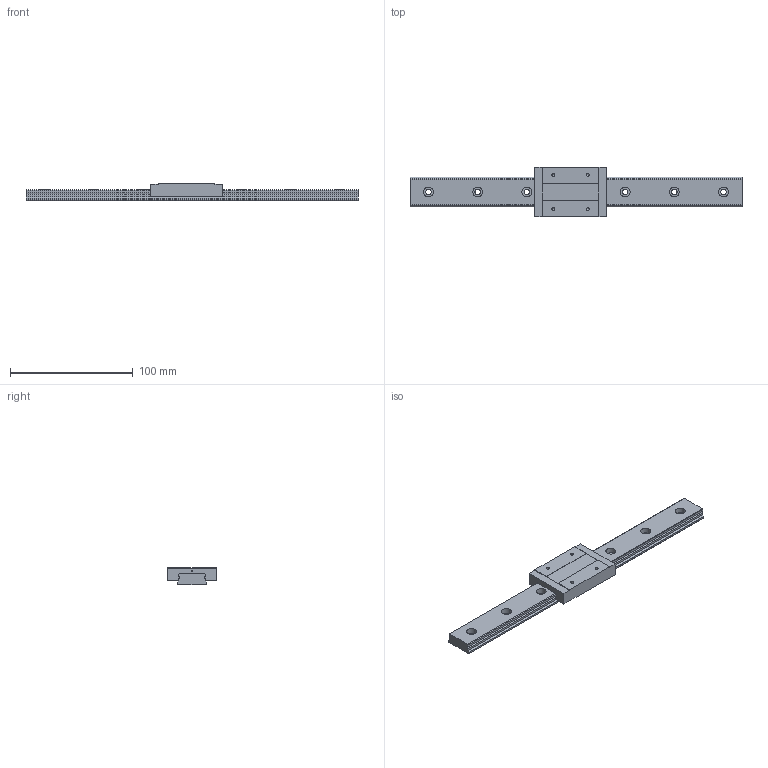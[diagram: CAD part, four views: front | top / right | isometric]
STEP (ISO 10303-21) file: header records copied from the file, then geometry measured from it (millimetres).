
FILE_DESCRIPTION((''),'2;1');
FILE_NAME('D:\製品 (図面)\カタログ用3D\リニアガイド関連\STEP形式\LGM-WL\LGM12WL.stp','2010-06-02T15:58:46',('Tsuchiya'),(''),'Autodesk Inventor 10','Autodesk Inventor 10','');
FILE_SCHEMA(('AUTOMOTIVE_DESIGN { 1 0 10303 214 1 1 1 1 }'));
Length unit declared in the file: millimetre
Products named in the file (3): LGM12WL; LGM12WL1; LGM12WL2
Assembly tree (2 placements, depth 2):
  LGM12WL
    LGM12WL1
    LGM12WL2
Bounding box: 270 x 40 x 14 mm (x, y, z)
Volume: 68300.4 mm3; surface area: 26473.8 mm2
Topology: 2 solids, 2 shells, 75 faces, 184 edges, 122 vertices
Faces by surface type: plane 39, bspline 27, cylinder 7, cone 2
Full cylindrical faces by diameter (mm): 1 x1, 2.459 x2
Entity records: 2387 total; most frequent: CARTESIAN_POINT 697, DIRECTION 308, ORIENTED_EDGE 308, EDGE_CURVE 154, EDGE_LOOP 122, VERTEX_POINT 116, VECTOR 106, LINE 106
